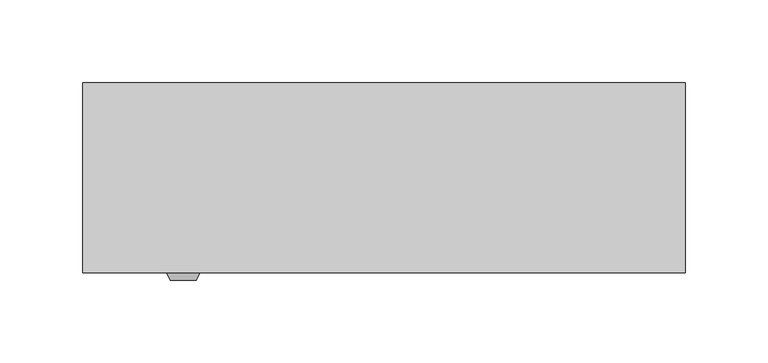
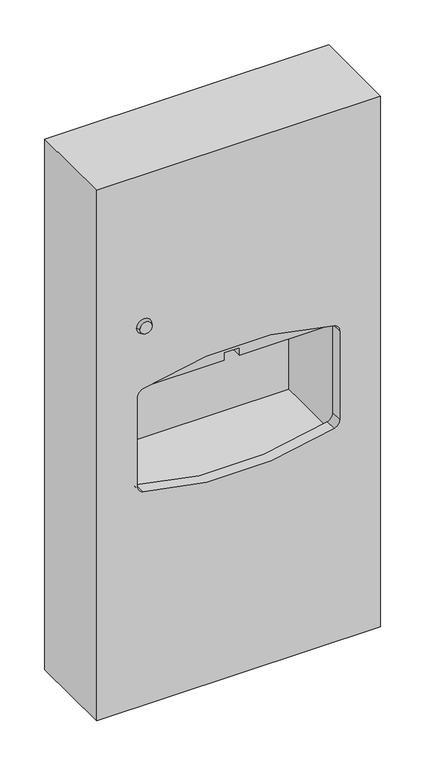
"""IFC4 building model written with IfcOpenShell, lengths in millimetres: proxy geometry, Paper Dispenser and Waste_Metlam_Surface Mounted_6.5L Waste : 365w x 115d x 720h (ML710_SMMK2)."""

from ifc_helpers import new_model, si_unit, frame, origin, place, context, project, spatial, polyline, circle_curve, outline, extrude, faceted_brep, source, transform, mapped, element, save
from ifc_brep_helpers import plane_surface, revolved_surface, advanced_brep


def specialty_equipment_1e4861f3(model_context):
    return source(origin(), model_context, "Body", "SolidModel", [
        advanced_brep(
        [(182.5, -115.0, 930.0), (182.5, -115.0, 1650.0), (-182.5, -115.0, 1650.0), (-182.5, -115.0, 930.0), (122.8402367, -115.0, 1359.6884689), (130.0, -115.0, 1350.1002962), (130.0, -115.0, 1229.8997038), (122.8402367, -115.0, 1220.3115311), (-122.8402367, -115.0, 1220.3115311), (-130.0, -115.0, 1229.8997038), (-130.0, -115.0, 1350.1002962), (-122.8402367, -115.0, 1359.6884689), (-180.5, -100.0, 1648.0), (180.5, -100.0, 1648.0), (180.5, -100.0, 932.0), (-180.5, -100.0, 932.0), (122.8402367, -100.0, 1359.6884689), (-122.8402367, -100.0, 1359.6884689), (-130.0, -100.0, 1350.1002962), (-130.0, -100.0, 1229.8997038), (-122.8402367, -100.0, 1220.3115311), (122.8402367, -100.0, 1220.3115311), (130.0, -100.0, 1229.8997038), (130.0, -100.0, 1350.1002962), (-182.5, 0.0, 1650.0), (-182.5, 0.0, 930.0), (182.5, 0.0, 930.0), (182.5, 0.0, 1650.0), (-180.5, 0.0, 1648.0), (-180.5, 0.0, 932.0), (180.5, 0.0, 932.0), (180.5, 0.0, 1648.0)],
        [
            (0, 1),
            (1, 2),
            (2, 3),
            (3, 0),
            (4, 5, circle_curve(frame((120.0, -115.0, 1350.1002962), z_axis=(0.0, 1.0, 0.0), x_axis=(1.0, 0.0, 0.0)), 10.0)),
            (5, 6),
            (6, 7, circle_curve(frame((120.0, -115.0, 1229.8997038), z_axis=(0.0, 1.0, 0.0), x_axis=(1.0, 0.0, 0.0)), 10.0)),
            (7, 8, circle_curve(frame((0.0, -115.0, 1635.0), z_axis=(0.0, 1.0, 0.0), x_axis=(1.0, 0.0, 0.0)), 432.5)),
            (8, 9, circle_curve(frame((-120.0, -115.0, 1229.8997038), z_axis=(0.0, 1.0, 0.0), x_axis=(1.0, 0.0, 0.0)), 10.0)),
            (9, 10),
            (10, 11, circle_curve(frame((-120.0, -115.0, 1350.1002962), z_axis=(0.0, 1.0, 0.0), x_axis=(1.0, 0.0, 0.0)), 10.0)),
            (11, 4, circle_curve(frame((0.0, -115.0, 945.0), z_axis=(0.0, 1.0, 0.0), x_axis=(1.0, 0.0, 0.0)), 432.5)),
            (12, 13),
            (13, 14),
            (14, 15),
            (15, 12),
            (16, 17, circle_curve(frame((0.0, -100.0, 945.0), z_axis=(0.0, -1.0, 0.0), x_axis=(1.0, 0.0, 0.0)), 432.5)),
            (17, 18, circle_curve(frame((-120.0, -100.0, 1350.1002962), z_axis=(0.0, -1.0, 0.0), x_axis=(1.0, 0.0, 0.0)), 10.0)),
            (18, 19),
            (19, 20, circle_curve(frame((-120.0, -100.0, 1229.8997038), z_axis=(0.0, -1.0, 0.0), x_axis=(1.0, 0.0, 0.0)), 10.0)),
            (20, 21, circle_curve(frame((0.0, -100.0, 1635.0), z_axis=(0.0, -1.0, 0.0), x_axis=(1.0, 0.0, 0.0)), 432.5)),
            (21, 22, circle_curve(frame((120.0, -100.0, 1229.8997038), z_axis=(0.0, -1.0, 0.0), x_axis=(1.0, 0.0, 0.0)), 10.0)),
            (22, 23),
            (23, 16, circle_curve(frame((120.0, -100.0, 1350.1002962), z_axis=(0.0, -1.0, 0.0), x_axis=(1.0, 0.0, 0.0)), 10.0)),
            (2, 24),
            (24, 25),
            (25, 3),
            (25, 26),
            (26, 0),
            (26, 27),
            (27, 1),
            (27, 24),
            (4, 16),
            (23, 5),
            (22, 6),
            (21, 7),
            (20, 8),
            (19, 9),
            (18, 10),
            (17, 11),
            (28, 29),
            (29, 30),
            (30, 31),
            (31, 28),
            (31, 13),
            (12, 28),
            (30, 14),
            (29, 15),
        ],
        [
            plane_surface(frame((182.5, -115.0, 1650.0), z_axis=(0.0, -1.0, 0.0), x_axis=(0.0, 0.0, 1.0))),
            plane_surface(frame((182.5, -100.0, 1650.0), z_axis=(0.0, 1.0, 0.0), x_axis=(0.0, 0.0, -1.0))),
            plane_surface(frame((-182.5, -115.0, 1650.0), z_axis=(-1.0, 0.0, 0.0), x_axis=(0.0, 1.0, 0.0))),
            plane_surface(frame((-182.5, -115.0, 930.0), z_axis=(0.0, 0.0, -1.0), x_axis=(0.0, 1.0, 0.0))),
            plane_surface(frame((182.5, -115.0, 930.0), z_axis=(1.0, 0.0, 0.0), x_axis=(0.0, 1.0, 0.0))),
            plane_surface(frame((182.5, -115.0, 1650.0), z_axis=(0.0, 0.0, 1.0), x_axis=(0.0, 1.0, 0.0))),
            revolved_surface(polyline([(130.0, -100.0, 1350.1002962), (130.0, -115.0, 1350.1002962)]), (120.0, 0.0, 1350.1002962), (0.0, 1.0, 0.0)),
            plane_surface(frame((130.0, -115.0, 1350.1002962), z_axis=(-1.0, 0.0, 2.103984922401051e-12), x_axis=(0.0, 1.0, 0.0))),
            revolved_surface(polyline([(130.0, -100.0, 1229.8997038), (130.0, -115.0, 1229.8997038)]), (120.0, 0.0, 1229.8997038), (0.0, 1.0, 0.0)),
            revolved_surface(polyline([(432.5, -100.0, 1635.0), (432.5, -115.0, 1635.0)]), (0.0, 0.0, 1635.0), (0.0, 1.0, 0.0)),
            revolved_surface(polyline([(-110.0, -100.0, 1229.8997038), (-110.0, -115.0, 1229.8997038)]), (-120.0, 0.0, 1229.8997038), (0.0, 1.0, 0.0)),
            plane_surface(frame((-130.0, -115.0, 1229.8997038), z_axis=(1.0, 0.0, 0.0), x_axis=(0.0, 1.0, 0.0))),
            revolved_surface(polyline([(-110.0, -100.0, 1350.1002962), (-110.0, -115.0, 1350.1002962)]), (-120.0, 0.0, 1350.1002962), (0.0, 1.0, 0.0)),
            revolved_surface(polyline([(432.5, -100.0, 945.0), (432.5, -115.0, 945.0)]), (0.0, 0.0, 945.0), (0.0, 1.0, 0.0)),
            plane_surface(frame((-182.5, 0.0, 1650.0), z_axis=(0.0, 1.0, 0.0), x_axis=(1.0, 0.0, 0.0))),
            plane_surface(frame((-180.5, -100.0, 1648.0), z_axis=(0.0, 0.0, -1.0), x_axis=(0.0, 1.0, 0.0))),
            plane_surface(frame((180.5, -100.0, 1648.0), z_axis=(-1.0, 0.0, 0.0), x_axis=(0.0, 1.0, 0.0))),
            plane_surface(frame((180.5, -100.0, 932.0), z_axis=(0.0, 0.0, 1.0), x_axis=(0.0, 1.0, 0.0))),
            plane_surface(frame((-180.5, -100.0, 932.0), z_axis=(1.0, 0.0, 0.0), x_axis=(0.0, 1.0, 0.0))),
        ],
        [
            (0, [[1, 2, 3, 4], [5, 6, 7, 8, 9, 10, 11, 12]]),
            (1, [[13, 14, 15, 16], [17, 18, 19, 20, 21, 22, 23, 24]]),
            (2, [[-3, 25, 26, 27]]),
            (3, [[-4, -27, 28, 29]]),
            (4, [[-1, -29, 30, 31]]),
            (5, [[-25, -2, -31, 32]]),
            (6, [[-5, 33, -24, 34]]),
            (7, [[-6, -34, -23, 35]]),
            (8, [[-7, -35, -22, 36]]),
            (9, [[-8, -36, -21, 37]]),
            (10, [[-9, -37, -20, 38]]),
            (11, [[-10, -38, -19, 39]]),
            (12, [[-11, -39, -18, 40]]),
            (13, [[-12, -40, -17, -33]]),
            (14, [[-30, -28, -26, -32], [41, 42, 43, 44]]),
            (15, [[-44, 45, -13, 46]]),
            (16, [[-43, 47, -14, -45]]),
            (17, [[-42, 48, -15, -47]]),
            (18, [[-41, -46, -16, -48]]),
        ],
    ),
        extrude(outline(polyline([(1379.1, 131.6), (1379.1, -131.6), (1200.9, -131.6), (1200.9, 131.6), (1379.1, 131.6)]), holes=[polyline([(1377.5, 130.0), (1202.5, 130.0), (1202.5, -130.0), (1377.5, -130.0), (1377.5, 130.0)])]), frame((0.0, -100.0, 0.0), z_axis=(0.0, 1.0, 0.0), x_axis=(0.0, 0.0, 1.0)), (0.0, 0.0, 1.0), 98.0),
        extrude(outline(polyline([(1377.5, 130.0), (1377.5, -130.0), (1350.1002962, -130.0), (1350.1002962, -10.0), (1360.1002962, -10.0), (1360.1002962, 10.0), (1350.1002962, 10.0), (1350.1002962, 130.0), (1377.5, 130.0)])), frame((0.0, -100.0, 0.0), z_axis=(0.0, 1.0, 0.0), x_axis=(0.0, 0.0, 1.0)), (0.0, 0.0, 1.0), 18.0),
        faceted_brep([(-162.0, -97.0, 1627.5), (-162.0, -97.0, 952.5), (162.0, -97.0, 952.5), (162.0, -97.0, 1627.5), (-160.0, -97.0, 1625.5), (160.0, -97.0, 1625.5), (160.0, -97.0, 954.5), (-160.0, -97.0, 954.5), (-162.0, 0.0, 1627.5), (162.0, 0.0, 1627.5), (162.0, 0.0, 952.5), (-162.0, 0.0, 952.5), (-162.0, -2.0, 1627.5), (-162.0, -2.0, 952.5), (162.0, -2.0, 952.5), (162.0, -2.0, 1627.5), (-160.0, -2.0, 1625.5), (160.0, -2.0, 1625.5), (160.0, -2.0, 954.5), (-160.0, -2.0, 954.5)], [[[0, 1, 2, 3], [4, 5, 6, 7]], [[8, 9, 10, 11]], [[1, 0, 12, 8, 11, 13]], [[2, 1, 13, 11, 10, 14]], [[3, 2, 14, 10, 9, 15]], [[0, 3, 15, 9, 8, 12]], [[5, 4, 16, 17]], [[6, 5, 17, 18]], [[7, 6, 18, 19]], [[4, 7, 19, 16]], [[17, 16, 19, 18]]]),
        advanced_brep(
        [(-129.5369825, -119.649141, 1445.0972849), (-113.5369825, -119.649141, 1445.0972849), (-131.5369825, -115.0, 1445.0972849), (-111.5369825, -115.0, 1445.0972849)],
        [
            (0, 1, circle_curve(frame((-121.5369825, -119.649141, 1445.0972849), z_axis=(0.0, -1.0, 0.0), x_axis=(-1.0, 0.0, 0.0)), 8.0)),
            (1, 0, circle_curve(frame((-121.5369825, -119.649141, 1445.0972849), z_axis=(0.0, -1.0, 0.0), x_axis=(1.0, 0.0, 0.0)), 8.0)),
            (2, 3, circle_curve(frame((-121.5369825, -115.0, 1445.0972849), z_axis=(0.0, 1.0, 0.0), x_axis=(1.0, 0.0, 0.0)), 10.0)),
            (3, 2, circle_curve(frame((-121.5369825, -115.0, 1445.0972849), z_axis=(0.0, 1.0, 0.0), x_axis=(-1.0, 0.0, 0.0)), 10.0)),
            (3, 1),
            (0, 2),
        ],
        [
            plane_surface(frame((-121.5369825, -119.649141, 1445.0972849), z_axis=(0.0, -1.0, 0.0), x_axis=(0.0, 0.0, -1.0))),
            plane_surface(frame((-121.5369825, -115.0, 1445.0972849), z_axis=(0.0, 1.0, 0.0), x_axis=(0.0, 0.0, -1.0))),
            revolved_surface(polyline([(-129.53698248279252, -119.649141, 1445.0972849), (-131.5369825, -115.0, 1445.0972849)]), (-121.5369825, -138.2457048, 1445.0972849), (0.0, 1.0, 0.0)),
            revolved_surface(polyline([(-113.53698251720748, -119.649141, 1445.0972849), (-111.5369825, -115.0, 1445.0972849)]), (-121.5369825, -138.2457048, 1445.0972849), (0.0, 1.0, 0.0)),
        ],
        [
            (0, [[1, 2]]),
            (1, [[3, 4]]),
            (2, [[-4, 5, -1, 6]]),
            (3, [[-3, -6, -2, -5]]),
        ],
    ),
    ])


if __name__ == "__main__":
    model = new_model("IFC4")
    model_context = context("Model", 3, world=origin())
    ifc_project = project(units=[si_unit("LENGTHUNIT", "METRE", prefix="MILLI")], contexts=[model_context])
    site = spatial("IfcSite", under=ifc_project)
    building = spatial("IfcBuilding", under=site)
    placement = place(None, origin())
    specialty_equipment_shape = specialty_equipment_1e4861f3(model_context)
    element("IfcBuildingElementProxy", 1, Name="Paper Dispenser and Waste_Metlam_Surface Mounted_6.5L Waste : 365w x 115d x 720h (ML710_SMMK2)", ObjectType="Paper Dispenser and Waste_Metlam_Surface Mounted_6.5L Waste : 365w x 115d x 720h (ML710_SMMK2)", at=placement, inside=building, context=model_context, shape_type="MappedRepresentation", body=[
        mapped(specialty_equipment_shape, transform((0.0, 0.0, 0.0), x_axis=(1.0, 0.0, 0.0), y_axis=(0.0, 1.0, 0.0), z_axis=(0.0, 0.0, 1.0))),
    ])
    save(model, "model.ifc")
